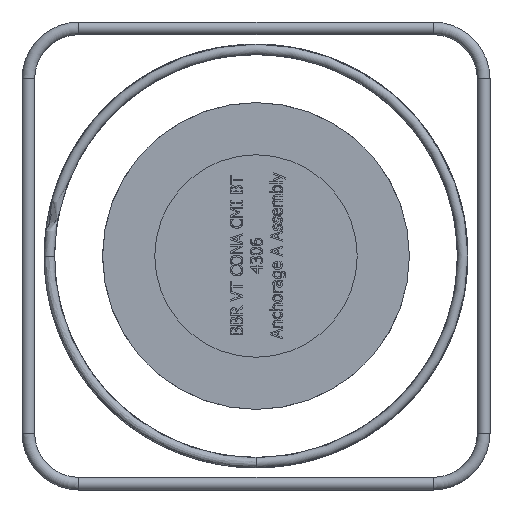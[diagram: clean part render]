
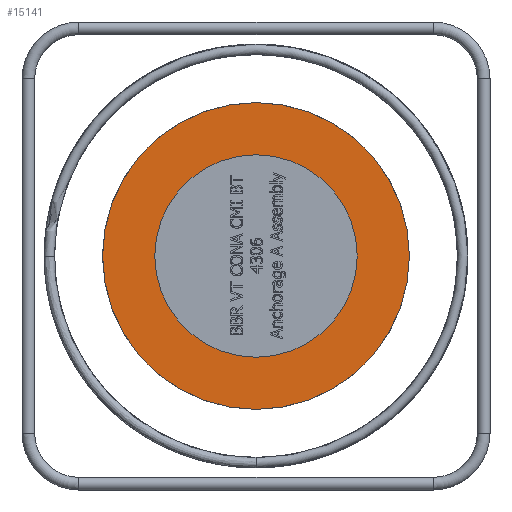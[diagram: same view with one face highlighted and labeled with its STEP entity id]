
A CAD part, left-side view. The second image highlights one B-rep face of the part: STEP entity #15141.
In plain terms, the highlighted planar face has unit normal (-1, 0, 0).
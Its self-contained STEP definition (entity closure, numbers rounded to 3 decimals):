
#95=FACE_BOUND('',#5304,.T.);
#735=PLANE('',#15868);
#4451=FACE_OUTER_BOUND('',#5303,.T.);
#5303=EDGE_LOOP('',(#13066));
#5304=EDGE_LOOP('',(#13067));
#5600=CIRCLE('',#15864,160.);
#5603=CIRCLE('',#15869,242.5);
#6999=VERTEX_POINT('',#31695);
#7006=VERTEX_POINT('',#31770);
#9036=EDGE_CURVE('',#6999,#6999,#5600,.T.);
#9043=EDGE_CURVE('',#7006,#7006,#5603,.T.);
#13066=ORIENTED_EDGE('',*,*,#9043,.T.);
#13067=ORIENTED_EDGE('',*,*,#9036,.T.);
#15141=ADVANCED_FACE('',(#4451,#95),#735,.T.);
#15864=AXIS2_PLACEMENT_3D('',#31697,#18382,#18383);
#15868=AXIS2_PLACEMENT_3D('',#31769,#18390,#18391);
#15869=AXIS2_PLACEMENT_3D('',#31771,#18392,#18393);
#18382=DIRECTION('center_axis',(1.,0.,0.));
#18383=DIRECTION('ref_axis',(0.,1.,0.));
#18390=DIRECTION('center_axis',(-1.,0.,0.));
#18391=DIRECTION('ref_axis',(0.,0.,
1.));
#18392=DIRECTION('center_axis',(-1.,0.,0.));
#18393=DIRECTION('ref_axis',(0.,-1.,0.));
#31695=CARTESIAN_POINT('',(-340.,-160.,0.));
#31697=CARTESIAN_POINT('Origin',(-340.,0.,0.));
#31769=CARTESIAN_POINT('Origin',(-340.,-188.5,0.));
#31770=CARTESIAN_POINT('',(-340.,242.5,0.));
#31771=CARTESIAN_POINT('Origin',(-340.,0.,0.));
